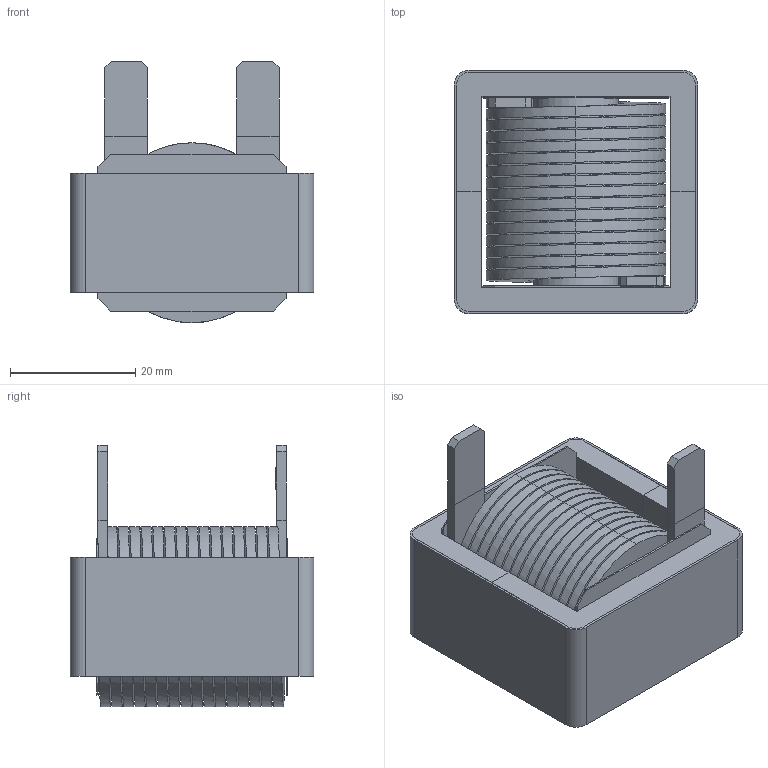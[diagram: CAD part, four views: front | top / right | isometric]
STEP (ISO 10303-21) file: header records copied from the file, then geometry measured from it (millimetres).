
FILE_DESCRIPTION (( 'STEP AP214' ), '1' );
FILE_NAME ('E70340-013 REV.C1.STEP', '2021-07-29T11:03:55', ( '' ), ( '' ), 'SwSTEP 2.0', 'SolidWorks 2015', '' );
FILE_SCHEMA (( 'AUTOMOTIVE_DESIGN' ));
Length unit declared in the file: millimetre
Products named in the file (6): HELICAL COIL; E70340-013 REV.C1; CENTER MYLAR; E CORE; WRAPPER; SIDE MYLAR
Assembly tree (7 placements, depth 2):
  E70340-013 REV.C1
    HELICAL COIL
    E CORE  x2
    SIDE MYLAR  x2
    CENTER MYLAR
    WRAPPER
Bounding box: 38.86 x 38.88 x 41.7 mm (x, y, z)
Volume: 28269.1 mm3; surface area: 37349.4 mm2
Topology: 9 solids, 9 shells, 360 faces, 962 edges, 636 vertices
Faces by surface type: plane 203, cylinder 92, bspline 65
Entity records: 18158 total; most frequent: CARTESIAN_POINT 8692, ORIENTED_EDGE 1780, DIRECTION 1234, EDGE_CURVE 890, VERTEX_POINT 588, LINE 574, VECTOR 574, EDGE_LOOP 356
